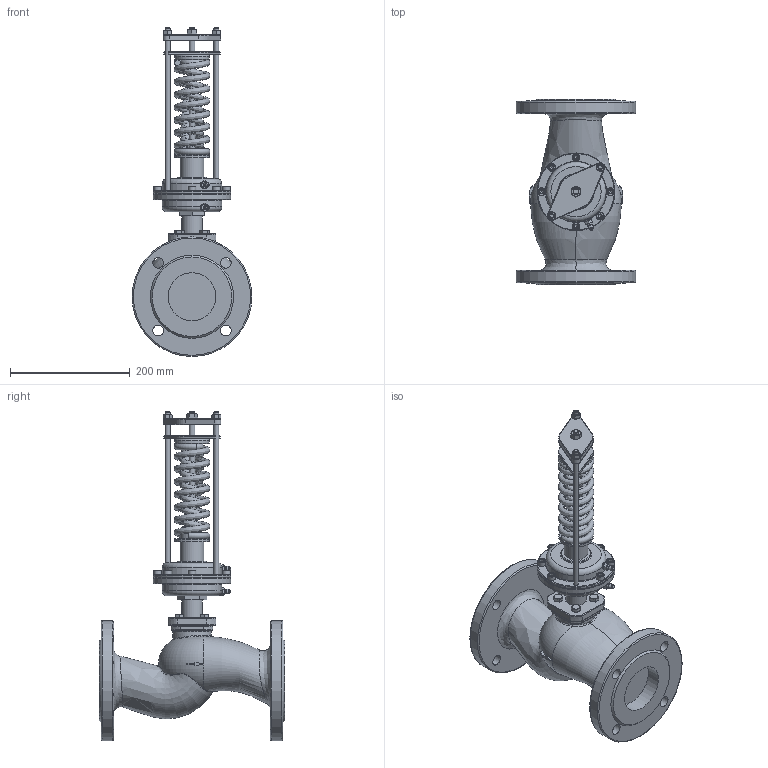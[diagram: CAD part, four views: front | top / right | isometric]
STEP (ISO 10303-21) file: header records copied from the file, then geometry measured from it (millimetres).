
FILE_DESCRIPTION(('STEP AP214'), '1');
FILE_NAME('Ðåãóëÿòîðû ïåðåïàäà äàâëåíèÿ ÂÐÄÄ', '', ('UNSPECIFIED'), ('UNSPECIFIED'), 'C3D Converter', 'C3D Toolkit', '');
FILE_SCHEMA(('AUTOMOTIVE_DESIGN { 1 0 10303 214 3 1 1}'));
Length unit declared in the file: millimetre
Products named in the file (8): -08
Assembly tree (17 placements, depth 3):
  -08
    -08
      (unnamed)  x4
    -08
      (unnamed)  x6
      (unnamed)  x2
      (unnamed)
      (unnamed)  x2
Bounding box: 200 x 310 x 550 mm (x, y, z)
Volume: 4710605.8 mm3; surface area: 488082.2 mm2
Topology: 29 solids, 29 shells, 621 faces, 1349 edges, 797 vertices
Faces by surface type: plane 264, cylinder 148, cone 88, torus 56, bspline 48, sphere 16, revolution 1
Full cylindrical faces by diameter (mm): 1.7 x2, 2.7 x4, 6 x16, 6.5 x4, 6.917 x2, 8 x12, 8.5 x4, 8.917 x1, 10 x10, 13 x6, 14 x4, 18 x8, 35 x1, 40 x3, 50 x1, 58 x2, 80 x2, 100 x2, 130 x2, 200 x2
Entity records: 37629 total; most frequent: CARTESIAN_POINT 26794, DIRECTION 1725, ORIENTED_EDGE 1532, EDGE_CURVE 766, AXIS2_PLACEMENT_3D 750, EDGE_LOOP 619, VERTEX_POINT 523, ADVANCED_FACE 415
